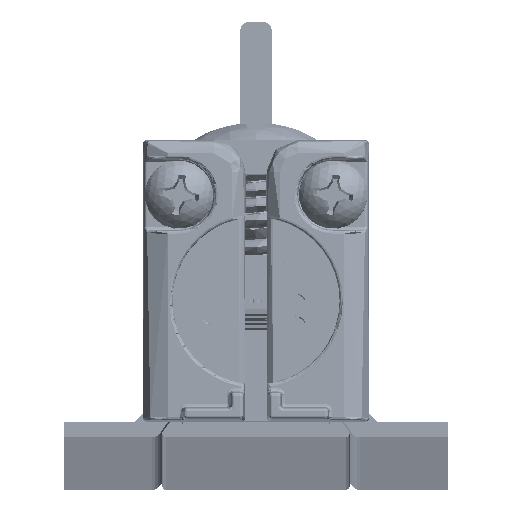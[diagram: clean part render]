
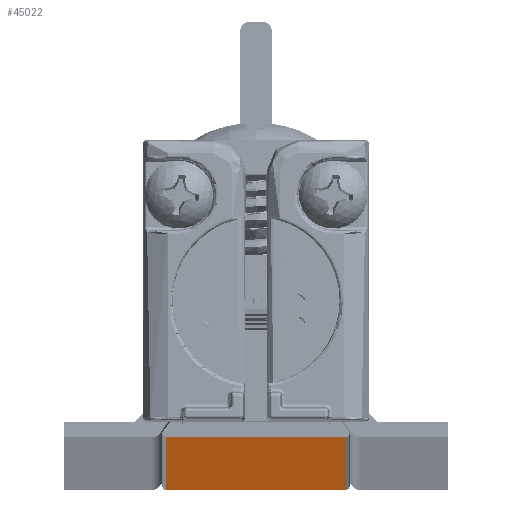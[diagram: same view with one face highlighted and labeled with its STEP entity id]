
A CAD part, top view. The second image highlights one B-rep face of the part: STEP entity #45022.
In plain terms, the highlighted planar face has unit normal (0, -1, 0).
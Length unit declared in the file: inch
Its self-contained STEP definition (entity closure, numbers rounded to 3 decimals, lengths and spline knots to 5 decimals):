
#2129 = CARTESIAN_POINT ( 'NONE',  ( -0.28619, 0., 0. ) ) ;
#2450 = DIRECTION ( 'NONE',  ( 1., 0., 0. ) ) ;
#3020 = CARTESIAN_POINT ( 'NONE',  ( -0.28619, 0., -96. ) ) ;
#5480 = VECTOR ( 'NONE', #13858, 39.37008 ) ;
#8618 = CARTESIAN_POINT ( 'NONE',  ( -0.28619, 0., -96. ) ) ;
#10368 = CARTESIAN_POINT ( 'NONE',  ( -0.28619, 0., 0. ) ) ;
#13858 = DIRECTION ( 'NONE',  ( 1., 0., 0. ) ) ;
#20993 = ORIENTED_EDGE ( 'NONE', *, *, #37878, .T. ) ;
#21173 = VERTEX_POINT ( 'NONE', #10368 ) ;
#22349 = LINE ( 'NONE', #8618, #5480 ) ;
#22849 = CARTESIAN_POINT ( 'NONE',  ( 0.28619, 0., -96. ) ) ;
#22950 = FACE_OUTER_BOUND ( 'NONE', #44968, .T. ) ;
#26025 = VERTEX_POINT ( 'NONE', #48183 ) ;
#27748 = DIRECTION ( 'NONE',  ( 0., 0., 1. ) ) ;
#28701 = EDGE_CURVE ( 'NONE', #26025, #36995, #31651, .T. ) ;
#30475 = ORIENTED_EDGE ( 'NONE', *, *, #28701, .T. ) ;
#31134 = CARTESIAN_POINT ( 'NONE',  ( 0.28619, 0., 0. ) ) ;
#31651 = LINE ( 'NONE', #22849, #50781 ) ;
#31879 = VERTEX_POINT ( 'NONE', #47258 ) ;
#32142 = LINE ( 'NONE', #2129, #60007 ) ;
#32827 = ORIENTED_EDGE ( 'NONE', *, *, #56742, .F. ) ;
#35266 = DIRECTION ( 'NONE',  ( 0., -1., 0. ) ) ;
#36995 = VERTEX_POINT ( 'NONE', #31134 ) ;
#37878 = EDGE_CURVE ( 'NONE', #31879, #26025, #22349, .T. ) ;
#42842 = AXIS2_PLACEMENT_3D ( 'NONE', #49967, #35266, #55498 ) ;
#44968 = EDGE_LOOP ( 'NONE', ( #32827, #47583, #20993, #30475 ) ) ;
#45022 = ADVANCED_FACE ( 'NONE', ( #22950 ), #58456, .T. ) ;
#46703 = VECTOR ( 'NONE', #52616, 39.37008 ) ;
#47258 = CARTESIAN_POINT ( 'NONE',  ( -0.28619, 0., -96. ) ) ;
#47583 = ORIENTED_EDGE ( 'NONE', *, *, #62030, .F. ) ;
#48183 = CARTESIAN_POINT ( 'NONE',  ( 0.28619, 0., -96. ) ) ;
#49967 = CARTESIAN_POINT ( 'NONE',  ( -0.28619, 0., -96. ) ) ;
#50781 = VECTOR ( 'NONE', #27748, 39.37008 ) ;
#52616 = DIRECTION ( 'NONE',  ( 0., 0., 1. ) ) ;
#55498 = DIRECTION ( 'NONE',  ( 0., 0., -1. ) ) ;
#56742 = EDGE_CURVE ( 'NONE', #21173, #36995, #32142, .T. ) ;
#57517 = LINE ( 'NONE', #3020, #46703 ) ;
#58456 = PLANE ( 'NONE',  #42842 ) ;
#60007 = VECTOR ( 'NONE', #2450, 39.37008 ) ;
#62030 = EDGE_CURVE ( 'NONE', #31879, #21173, #57517, .T. ) ;
